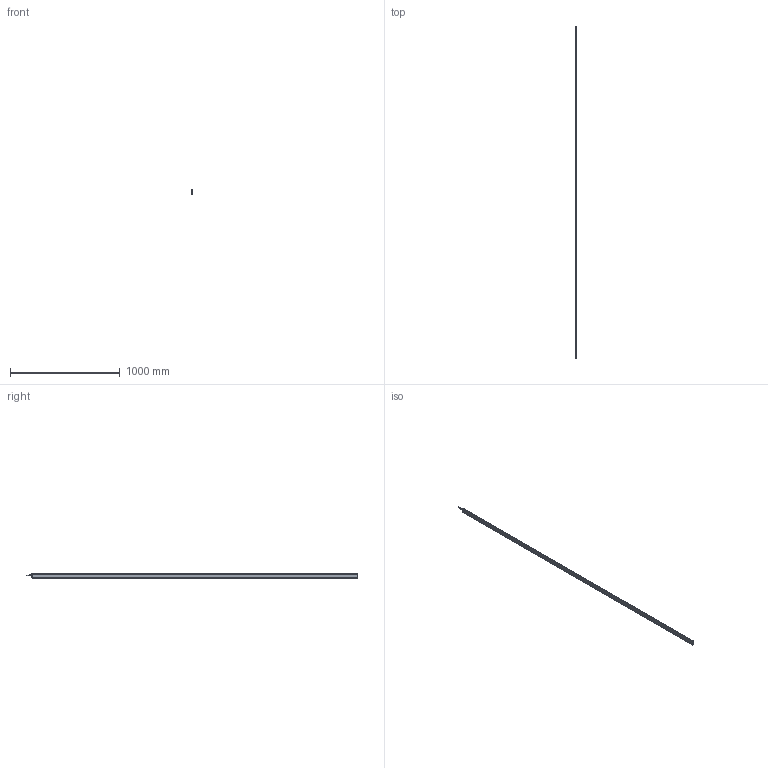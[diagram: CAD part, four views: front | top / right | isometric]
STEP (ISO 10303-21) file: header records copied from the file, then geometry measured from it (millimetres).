
FILE_DESCRIPTION (( 'STEP AP214' ), '1' );
FILE_NAME ('ILG-L-K2-2970mm.STEP', '2017-07-11T08:46:40', ( '' ), ( '' ), 'SwSTEP 2.0', 'SolidWorks 2016', '' );
FILE_SCHEMA (( 'AUTOMOTIVE_DESIGN' ));
Length unit declared in the file: millimetre
Products named in the file (1): ILG-L-K2-2970mm
Bounding box: 9 x 3024.5 x 40.71 mm (x, y, z)
Surface area: 584159.7 mm2 (no closed solid volume)
Topology: 0 solids, 13 shells, 681 faces, 1786 edges, 1135 vertices
Faces by surface type: cylinder 288, plane 255, cone 90, bspline 32, torus 16
Entity records: 30628 total; most frequent: CARTESIAN_POINT 6489, ORIENTED_EDGE 3525, DIRECTION 3406, EDGE_CURVE 1770, AXIS2_PLACEMENT_3D 1301, VERTEX_POINT 1135, LINE 804, VECTOR 804
